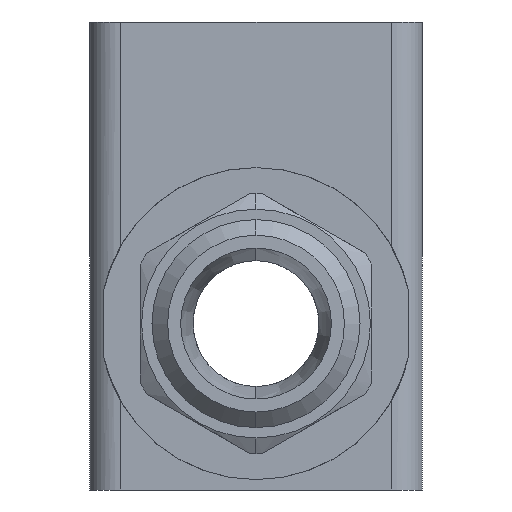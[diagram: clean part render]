
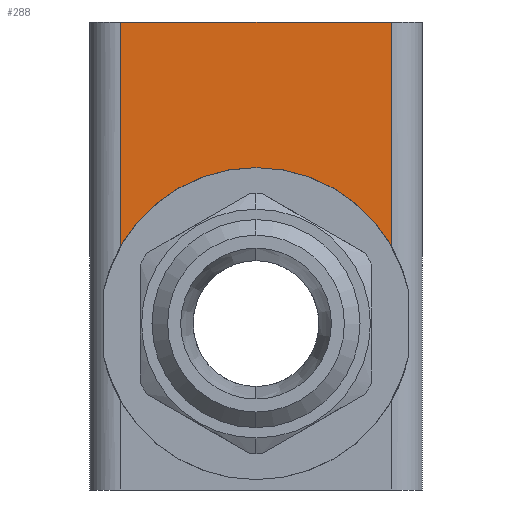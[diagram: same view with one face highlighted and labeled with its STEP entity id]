
A CAD part, left-side view. The second image highlights one B-rep face of the part: STEP entity #288.
In plain terms, the highlighted planar face has unit normal (-1, 0, 0).
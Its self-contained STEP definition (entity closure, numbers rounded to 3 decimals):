
#8 = CARTESIAN_POINT ( 'NONE',  ( -31.5, 13., 22.5 ) ) ;
#38 = LINE ( 'NONE', #8, #1644 ) ;
#288 = ADVANCED_FACE ( 'NONE', ( #439 ), #691, .F. ) ;
#319 = EDGE_CURVE ( 'NONE', #492, #2482, #2782, .T. ) ;
#331 = ORIENTED_EDGE ( 'NONE', *, *, #2547, .T. ) ;
#366 = DIRECTION ( 'NONE',  ( 0., 0., 1. ) ) ;
#400 = VECTOR ( 'NONE', #366, 1000. ) ;
#439 = FACE_OUTER_BOUND ( 'NONE', #1289, .T. ) ;
#492 = VERTEX_POINT ( 'NONE', #1071 ) ;
#679 = CARTESIAN_POINT ( 'NONE',  ( -31.5, -13., 0.983 ) ) ;
#691 = PLANE ( 'NONE',  #991 ) ;
#723 = CARTESIAN_POINT ( 'NONE',  ( -31.5, 16., 22.5 ) ) ;
#916 = DIRECTION ( 'NONE',  ( 0., 0., 1. ) ) ;
#991 = AXIS2_PLACEMENT_3D ( 'NONE', #723, #1228, #2265 ) ;
#1071 = CARTESIAN_POINT ( 'NONE',  ( -31.5, 13., 22.5 ) ) ;
#1176 = CARTESIAN_POINT ( 'NONE',  ( -31.5, -13., 22.5 ) ) ;
#1228 = DIRECTION ( 'NONE',  ( 1., 0., 0. ) ) ;
#1289 = EDGE_LOOP ( 'NONE', ( #3269, #3015, #1442, #331, #1698 ) ) ;
#1298 = EDGE_CURVE ( 'NONE', #2113, #2720, #2419, .T. ) ;
#1442 = ORIENTED_EDGE ( 'NONE', *, *, #319, .F. ) ;
#1582 = EDGE_CURVE ( 'NONE', #2720, #2423, #3119, .T. ) ;
#1631 = DIRECTION ( 'NONE',  ( 0., 0., 1. ) ) ;
#1644 = VECTOR ( 'NONE', #3045, 1000. ) ;
#1698 = ORIENTED_EDGE ( 'NONE', *, *, #1582, .F. ) ;
#1905 = CARTESIAN_POINT ( 'NONE',  ( -31.5, 0., -6.5 ) ) ;
#1962 = EDGE_CURVE ( 'NONE', #2113, #2482, #2962, .T. ) ;
#2113 = VERTEX_POINT ( 'NONE', #679 ) ;
#2122 = VECTOR ( 'NONE', #2551, 1000. ) ;
#2154 = AXIS2_PLACEMENT_3D ( 'NONE', #1905, #2887, #1631 ) ;
#2210 = DIRECTION ( 'NONE',  ( -1., 0., 0. ) ) ;
#2244 = CARTESIAN_POINT ( 'NONE',  ( -31.5, 13., 0.983 ) ) ;
#2265 = DIRECTION ( 'NONE',  ( 0., 0., -1. ) ) ;
#2419 = CIRCLE ( 'NONE', #2842, 15. ) ;
#2421 = CARTESIAN_POINT ( 'NONE',  ( -31.5, 0., 8.5 ) ) ;
#2423 = VERTEX_POINT ( 'NONE', #2244 ) ;
#2482 = VERTEX_POINT ( 'NONE', #3233 ) ;
#2486 = CARTESIAN_POINT ( 'NONE',  ( -31.5, 16., 22.5 ) ) ;
#2499 = CARTESIAN_POINT ( 'NONE',  ( -31.5, 0., -6.5 ) ) ;
#2547 = EDGE_CURVE ( 'NONE', #492, #2423, #38, .T. ) ;
#2551 = DIRECTION ( 'NONE',  ( 0., -1., 0. ) ) ;
#2720 = VERTEX_POINT ( 'NONE', #2421 ) ;
#2782 = LINE ( 'NONE', #2486, #2122 ) ;
#2842 = AXIS2_PLACEMENT_3D ( 'NONE', #2499, #2210, #916 ) ;
#2887 = DIRECTION ( 'NONE',  ( -1., 0., 0. ) ) ;
#2962 = LINE ( 'NONE', #1176, #400 ) ;
#3015 = ORIENTED_EDGE ( 'NONE', *, *, #1962, .T. ) ;
#3045 = DIRECTION ( 'NONE',  ( 0., 0., -1. ) ) ;
#3119 = CIRCLE ( 'NONE', #2154, 15. ) ;
#3233 = CARTESIAN_POINT ( 'NONE',  ( -31.5, -13., 22.5 ) ) ;
#3269 = ORIENTED_EDGE ( 'NONE', *, *, #1298, .F. ) ;
